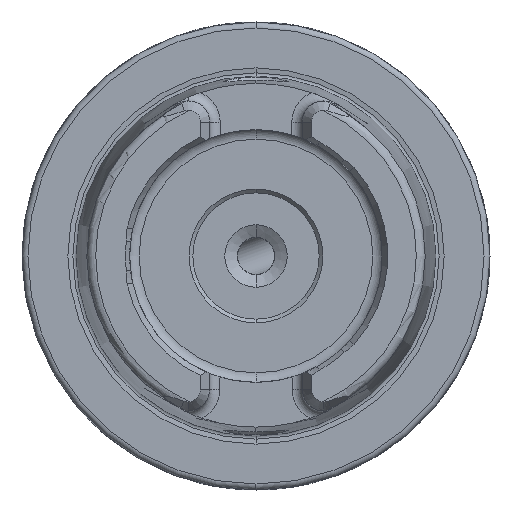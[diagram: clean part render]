
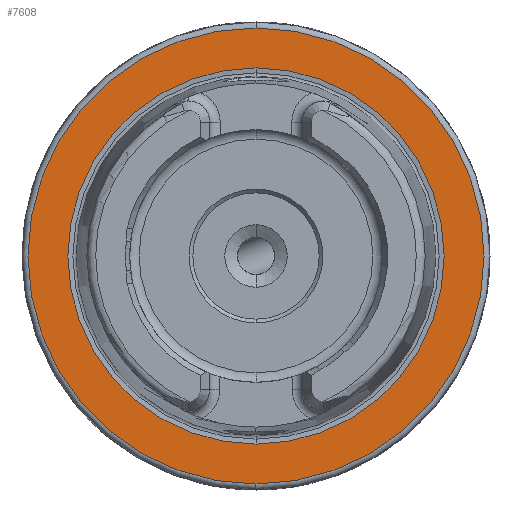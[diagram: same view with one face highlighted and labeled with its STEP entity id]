
A CAD part, left-side view. The second image highlights one B-rep face of the part: STEP entity #7608.
In plain terms, the highlighted planar face has unit normal (-1, 0, 0).
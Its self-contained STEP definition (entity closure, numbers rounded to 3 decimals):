
#55 = DIRECTION ( 'NONE',  ( 0., 0., 1. ) ) ;
#259 = DIRECTION ( 'NONE',  ( -1., 0., 0. ) ) ;
#265 = CIRCLE ( 'NONE', #14407, 25.324 ) ;
#366 = AXIS2_PLACEMENT_3D ( 'NONE', #17351, #10198, #14383 ) ;
#374 = AXIS2_PLACEMENT_3D ( 'NONE', #4461, #259, #5606 ) ;
#1032 = CARTESIAN_POINT ( 'NONE',  ( 0., 0., -30.7 ) ) ;
#1116 = CARTESIAN_POINT ( 'NONE',  ( 0., 0., -25.324 ) ) ;
#2636 = EDGE_CURVE ( 'NONE', #7866, #6748, #4663, .T. ) ;
#2961 = EDGE_CURVE ( 'NONE', #16279, #3689, #16121, .T. ) ;
#3689 = VERTEX_POINT ( 'NONE', #1116 ) ;
#3899 = ORIENTED_EDGE ( 'NONE', *, *, #2961, .F. ) ;
#3931 = ORIENTED_EDGE ( 'NONE', *, *, #7187, .F. ) ;
#4461 = CARTESIAN_POINT ( 'NONE',  ( 0., 0., 0. ) ) ;
#4663 = CIRCLE ( 'NONE', #374, 30.7 ) ;
#4827 = FACE_BOUND ( 'NONE', #8511, .T. ) ;
#5606 = DIRECTION ( 'NONE',  ( 0., 0., 1. ) ) ;
#6581 = FACE_OUTER_BOUND ( 'NONE', #13559, .T. ) ;
#6748 = VERTEX_POINT ( 'NONE', #14679 ) ;
#7187 = EDGE_CURVE ( 'NONE', #3689, #16279, #265, .T. ) ;
#7608 = ADVANCED_FACE ( 'NONE', ( #4827, #6581 ), #13105, .F. ) ;
#7866 = VERTEX_POINT ( 'NONE', #1032 ) ;
#7993 = ORIENTED_EDGE ( 'NONE', *, *, #12237, .T. ) ;
#8511 = EDGE_LOOP ( 'NONE', ( #3899, #3931 ) ) ;
#10128 = DIRECTION ( 'NONE',  ( -1., 0., 0. ) ) ;
#10198 = DIRECTION ( 'NONE',  ( 1., 0., 0. ) ) ;
#10736 = AXIS2_PLACEMENT_3D ( 'NONE', #11072, #12535, #55 ) ;
#11072 = CARTESIAN_POINT ( 'NONE',  ( 0., 0., 0. ) ) ;
#11127 = DIRECTION ( 'NONE',  ( 0., 0., 1. ) ) ;
#11415 = CARTESIAN_POINT ( 'NONE',  ( 0., 0., 25.324 ) ) ;
#11630 = CARTESIAN_POINT ( 'NONE',  ( 0., 0., 0. ) ) ;
#12237 = EDGE_CURVE ( 'NONE', #6748, #7866, #15003, .T. ) ;
#12464 = DIRECTION ( 'NONE',  ( -1., 0., 0. ) ) ;
#12535 = DIRECTION ( 'NONE',  ( -1., 0., 0. ) ) ;
#12916 = DIRECTION ( 'NONE',  ( 0., 0., 1. ) ) ;
#13105 = PLANE ( 'NONE',  #366 ) ;
#13559 = EDGE_LOOP ( 'NONE', ( #7993, #13876 ) ) ;
#13876 = ORIENTED_EDGE ( 'NONE', *, *, #2636, .T. ) ;
#14383 = DIRECTION ( 'NONE',  ( 0., 0., -1. ) ) ;
#14407 = AXIS2_PLACEMENT_3D ( 'NONE', #11630, #10128, #12916 ) ;
#14679 = CARTESIAN_POINT ( 'NONE',  ( 0., 0., 30.7 ) ) ;
#15003 = CIRCLE ( 'NONE', #10736, 30.7 ) ;
#16121 = CIRCLE ( 'NONE', #16158, 25.324 ) ;
#16158 = AXIS2_PLACEMENT_3D ( 'NONE', #16538, #12464, #11127 ) ;
#16279 = VERTEX_POINT ( 'NONE', #11415 ) ;
#16538 = CARTESIAN_POINT ( 'NONE',  ( 0., 0., 0. ) ) ;
#17351 = CARTESIAN_POINT ( 'NONE',  ( 0., 30.7, 0. ) ) ;
